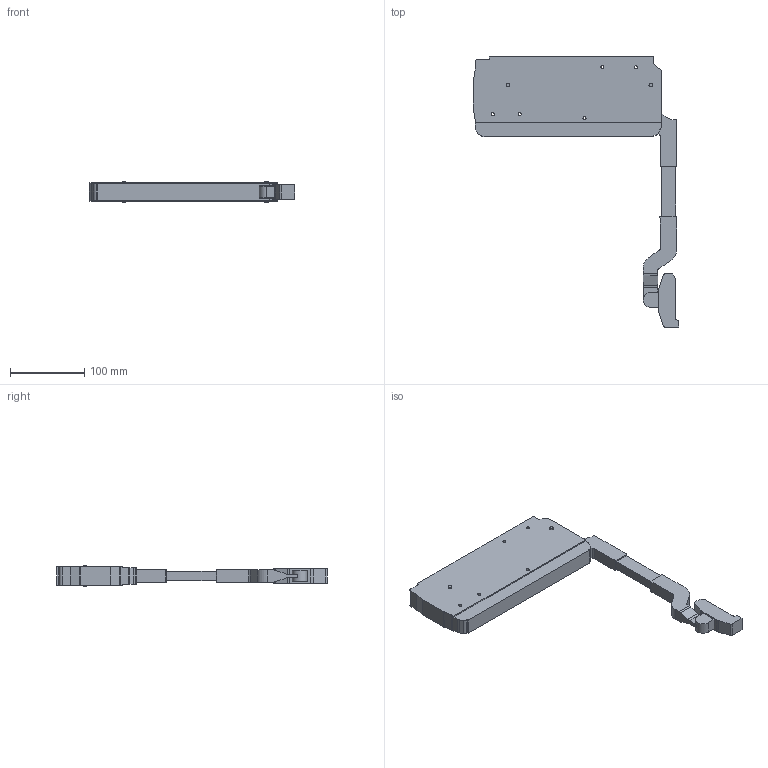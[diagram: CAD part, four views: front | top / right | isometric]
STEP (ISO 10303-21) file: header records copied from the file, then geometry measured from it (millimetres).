
FILE_DESCRIPTION (( 'STEP AP214' ), '1' );
FILE_NAME ('ST01AL(M).STEP', '2021-04-10T03:00:41', ( 'Windows 蚚誧' ), ( '' ), 'SwSTEP 2.0', 'SolidWorks 2018', '' );
FILE_SCHEMA (( 'AUTOMOTIVE_DESIGN' ));
Length unit declared in the file: millimetre
Products named in the file (1): ST01AL(M)
Bounding box: 275.52 x 362.77 x 28.6 mm (x, y, z)
Volume: 757194.5 mm3; surface area: 96863.4 mm2
Topology: 1 solids, 1 shells, 126 faces, 351 edges, 234 vertices
Faces by surface type: plane 68, cylinder 58
Entity records: 4578 total; most frequent: DIRECTION 723, CARTESIAN_POINT 712, ORIENTED_EDGE 702, EDGE_CURVE 351, AXIS2_PLACEMENT_3D 245, VERTEX_POINT 234, LINE 233, VECTOR 233
